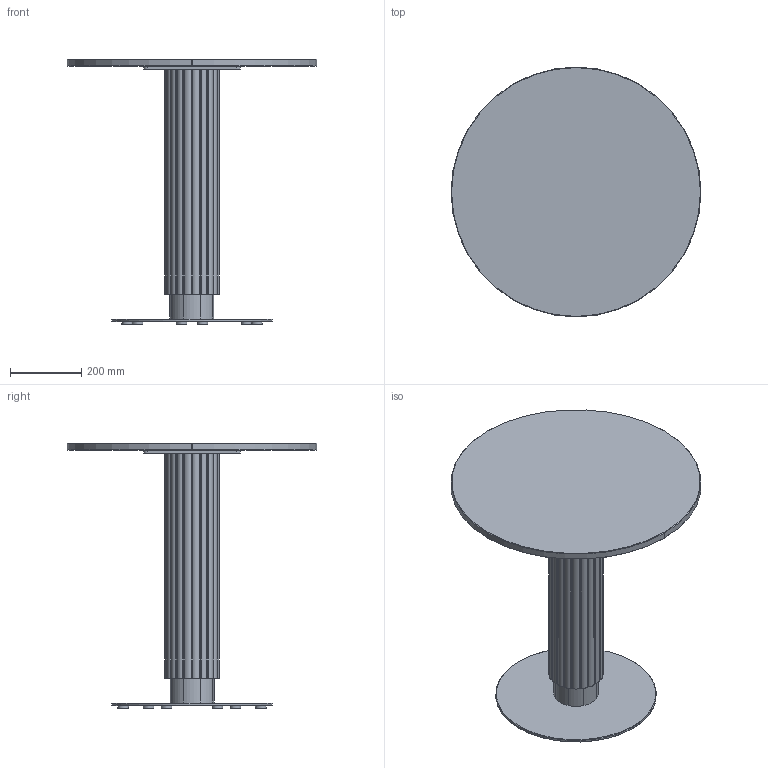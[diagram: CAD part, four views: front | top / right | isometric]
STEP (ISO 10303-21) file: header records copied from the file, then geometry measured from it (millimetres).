
FILE_DESCRIPTION( ('This file contains a STEP AP42 implementation' ,'as created by ZW3D STEP Interface translator.') ,'2;1' );
FILE_NAME( 'God - B_Rond - F1 - M1 - 700 x 700 x 750.stp' ,'24 912.112716', (''), ('ZWCAD Software Co.'), 'Version 1.0', 'ZW3D to STEP translator', '' );
FILE_SCHEMA(('AUTOMOTIVE_DESIGN { 1 0 10303 214 1 1 1 1 }'));
Length unit declared in the file: millimetre
Products named in the file (15): 0; PIED BISTROT PARAMETRIQUE_; SOCLE ACIER C Ø450 V.02_; SCL-D450-02_; PLA-R30A-01_; PLA-R30A-01; CROIX ACIER 370 V.02_; CRX-X370-02_; COLONNE ACIER Ø48.5 V.02_; TUB-D048-02_; PLA-R48A-01_; Colonne GODRON H700_; WUERTH 0276063020 Euro-screw 6.3x2 Verzinkt_; PLATEAU BISTROT PARAMETRIQUE_; insert_m6_13_
Assembly tree (25 placements, depth 3):
  0
  PIED BISTROT PARAMETRIQUE_
    SOCLE ACIER C Ø450 V.02_
      SCL-D450-02_
      PLA-R30A-01_
      PLA-R30A-01  x5
    CROIX ACIER 370 V.02_
      CRX-X370-02_
    COLONNE ACIER Ø48.5 V.02_
      TUB-D048-02_
      PLA-R48A-01_  x2
    Colonne GODRON H700_
    WUERTH 0276063020 Euro-screw 6.3x2 Verzinkt_
    PLATEAU BISTROT PARAMETRIQUE_
      insert_m6_13_  x8
Bounding box: 700 x 700 x 744 mm (x, y, z)
Volume: 20038290.1 mm3; surface area: 2560011.3 mm2
Topology: 29 solids, 29 shells, 656 faces, 1625 edges, 1042 vertices
Faces by surface type: plane 294, cylinder 193, bspline 121, cone 47, torus 1
Full cylindrical faces by diameter (mm): 4.88 x1, 6 x8, 6.3 x1, 8 x47, 12 x2, 14 x2, 30 x6, 44.5 x3, 48.5 x1, 450 x1
Entity records: 16234 total; most frequent: CARTESIAN_POINT 4039, DIRECTION 2249, ORIENTED_EDGE 2240, EDGE_CURVE 1120, AXIS2_PLACEMENT_3D 800, VERTEX_POINT 728, VECTOR 649, LINE 649
